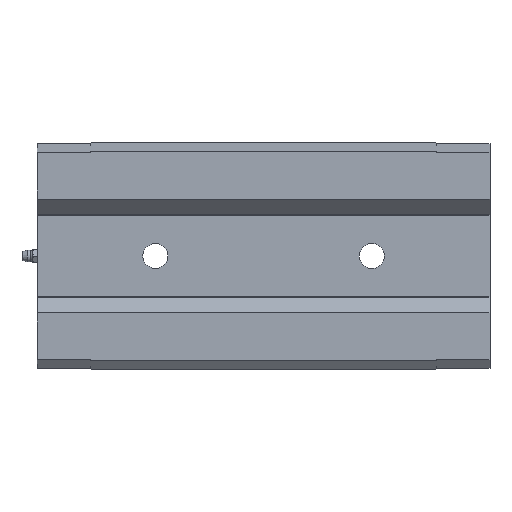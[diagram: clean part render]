
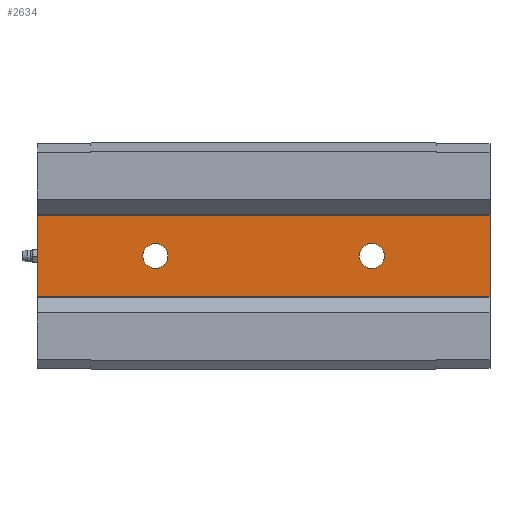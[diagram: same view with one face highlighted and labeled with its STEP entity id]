
A CAD part, front view. The second image highlights one B-rep face of the part: STEP entity #2634.
In plain terms, the highlighted planar face has unit normal (0, -1, 0).
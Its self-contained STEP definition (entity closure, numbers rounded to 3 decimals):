
#187=CIRCLE('',#2885,6.918);
#188=CIRCLE('',#2886,6.918);
#737=ORIENTED_EDGE('',*,*,#1208,.F.);
#738=ORIENTED_EDGE('',*,*,#1209,.F.);
#739=ORIENTED_EDGE('',*,*,#1034,.F.);
#740=ORIENTED_EDGE('',*,*,#1207,.F.);
#741=ORIENTED_EDGE('',*,*,#977,.T.);
#742=ORIENTED_EDGE('',*,*,#1210,.T.);
#977=EDGE_CURVE('',#1329,#1328,#1575,.T.);
#1034=EDGE_CURVE('',#1382,#1383,#1611,.T.);
#1207=EDGE_CURVE('',#1329,#1382,#1757,.T.);
#1208=EDGE_CURVE('',#1477,#1477,#187,.T.);
#1209=EDGE_CURVE('',#1478,#1478,#188,.T.);
#1210=EDGE_CURVE('',#1328,#1383,#1758,.T.);
#1328=VERTEX_POINT('',#3867);
#1329=VERTEX_POINT('',#3869);
#1382=VERTEX_POINT('',#3979);
#1383=VERTEX_POINT('',#3981);
#1477=VERTEX_POINT('',#4330);
#1478=VERTEX_POINT('',#4332);
#1575=LINE('',#3868,#1793);
#1611=LINE('',#3980,#1829);
#1757=LINE('',#4327,#1975);
#1758=LINE('',#4333,#1976);
#1793=VECTOR('',#3072,1000.);
#1829=VECTOR('',#3152,1000.);
#1975=VECTOR('',#3512,1000.);
#1976=VECTOR('',#3519,1000.);
#2089=EDGE_LOOP('',(#737));
#2090=EDGE_LOOP('',(#738));
#2091=EDGE_LOOP('',(#739,#740,#741,#742));
#2321=FACE_BOUND('',#2089,.T.);
#2322=FACE_BOUND('',#2090,.T.);
#2323=FACE_BOUND('',#2091,.T.);
#2521=PLANE('',#2884);
#2634=ADVANCED_FACE('',(#2321,#2322,#2323),#2521,.T.);
#2884=AXIS2_PLACEMENT_3D('',#4328,#3513,#3514);
#2885=AXIS2_PLACEMENT_3D('',#4329,#3515,#3516);
#2886=AXIS2_PLACEMENT_3D('',#4331,#3517,#3518);
#3072=DIRECTION('',(0.,0.,1.));
#3152=DIRECTION('',(0.,0.,1.));
#3512=DIRECTION('',(-1.,0.,0.));
#3513=DIRECTION('',(0.,-1.,0.));
#3514=DIRECTION('',(0.,0.,-1.));
#3515=DIRECTION('',(0.,-1.,0.));
#3516=DIRECTION('',(0.,0.,-1.));
#3517=DIRECTION('',(0.,-1.,0.));
#3518=DIRECTION('',(0.,0.,-1.));
#3519=DIRECTION('',(-1.,0.,0.));
#3867=CARTESIAN_POINT('',(125.5,45.7,30.47));
#3868=CARTESIAN_POINT('',(125.5,45.7,-30.47));
#3869=CARTESIAN_POINT('',(125.5,45.7,-30.47));
#3979=CARTESIAN_POINT('',(-125.5,45.7,-30.47));
#3980=CARTESIAN_POINT('',(-125.5,45.7,-30.47));
#3981=CARTESIAN_POINT('',(-125.5,45.7,30.47));
#4327=CARTESIAN_POINT('',(125.5,45.7,-30.47));
#4328=CARTESIAN_POINT('',(125.5,45.7,-30.47));
#4329=CARTESIAN_POINT('',(-60.,45.7,0.));
#4330=CARTESIAN_POINT('',(-60.,45.7,-6.918));
#4331=CARTESIAN_POINT('',(60.,45.7,0.));
#4332=CARTESIAN_POINT('',(60.,45.7,-6.918));
#4333=CARTESIAN_POINT('',(125.5,45.7,30.47));
